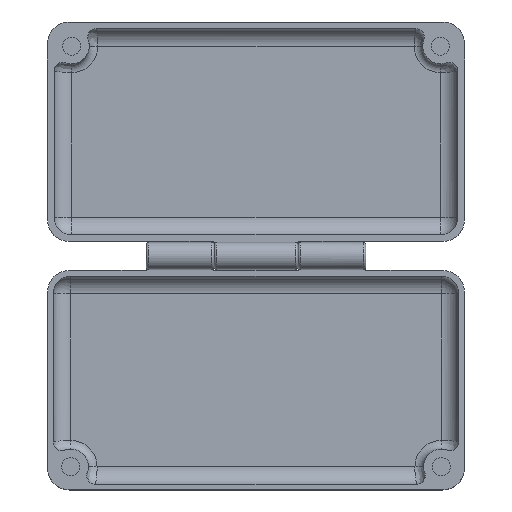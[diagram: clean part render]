
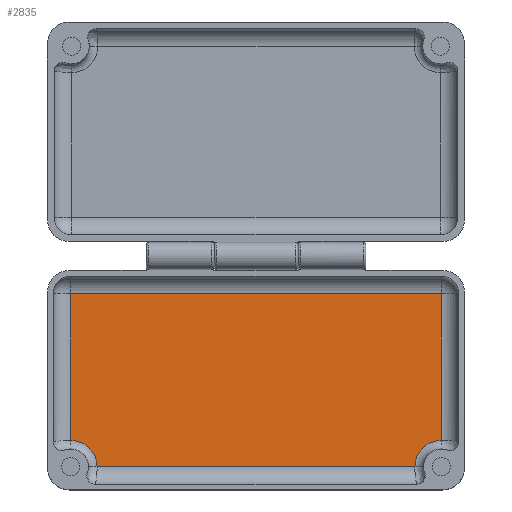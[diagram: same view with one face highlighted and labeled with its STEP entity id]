
A CAD part, top view. The second image highlights one B-rep face of the part: STEP entity #2835.
In plain terms, the highlighted planar face has unit normal (0, 0, 1).
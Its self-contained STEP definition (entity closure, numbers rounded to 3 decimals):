
#219 = CARTESIAN_POINT ( 'NONE',  ( 42.2, -22.85, -10.8 ) ) ;
#344 = VERTEX_POINT ( 'NONE', #1236 ) ;
#554 = CARTESIAN_POINT ( 'NONE',  ( -42.2, -28.85, -10.8 ) ) ;
#603 = CARTESIAN_POINT ( 'NONE',  ( -42.2, -22.85, -10.8 ) ) ;
#656 = CARTESIAN_POINT ( 'NONE',  ( 0., -9.15, -10.8 ) ) ;
#687 = DIRECTION ( 'NONE',  ( 1., 0., 0. ) ) ;
#976 = DIRECTION ( 'NONE',  ( 0., 0., -1. ) ) ;
#986 = ORIENTED_EDGE ( 'NONE', *, *, #3815, .T. ) ;
#1108 = LINE ( 'NONE', #4536, #3891 ) ;
#1160 = VECTOR ( 'NONE', #3842, 1000. ) ;
#1170 = FACE_OUTER_BOUND ( 'NONE', #3978, .T. ) ;
#1230 = CARTESIAN_POINT ( 'NONE',  ( 36.2, -28.85, -10.8 ) ) ;
#1236 = CARTESIAN_POINT ( 'NONE',  ( -36.2, -28.85, -10.8 ) ) ;
#1286 = DIRECTION ( 'NONE',  ( 0., 1., 0. ) ) ;
#1373 = ORIENTED_EDGE ( 'NONE', *, *, #5266, .T. ) ;
#1424 = LINE ( 'NONE', #1487, #2673 ) ;
#1448 = DIRECTION ( 'NONE',  ( 0., 0., -1. ) ) ;
#1487 = CARTESIAN_POINT ( 'NONE',  ( 42.2, -28.85, -10.8 ) ) ;
#1636 = AXIS2_PLACEMENT_3D ( 'NONE', #656, #4482, #3631 ) ;
#2112 = CARTESIAN_POINT ( 'NONE',  ( -42.2, 10.55, -10.8 ) ) ;
#2137 = ORIENTED_EDGE ( 'NONE', *, *, #3282, .T. ) ;
#2142 = VERTEX_POINT ( 'NONE', #3198 ) ;
#2155 = VERTEX_POINT ( 'NONE', #603 ) ;
#2265 = LINE ( 'NONE', #4348, #1160 ) ;
#2552 = EDGE_CURVE ( 'NONE', #2142, #5459, #1108, .T. ) ;
#2673 = VECTOR ( 'NONE', #687, 1000. ) ;
#2835 = ADVANCED_FACE ( 'NONE', ( #1170 ), #3196, .F. ) ;
#3196 = PLANE ( 'NONE',  #1636 ) ;
#3198 = CARTESIAN_POINT ( 'NONE',  ( 42.2, 10.55, -10.8 ) ) ;
#3282 = EDGE_CURVE ( 'NONE', #3773, #4585, #4891, .T. ) ;
#3336 = ORIENTED_EDGE ( 'NONE', *, *, #3412, .T. ) ;
#3350 = VECTOR ( 'NONE', #1286, 1000. ) ;
#3381 = ORIENTED_EDGE ( 'NONE', *, *, #2552, .T. ) ;
#3412 = EDGE_CURVE ( 'NONE', #2155, #344, #3944, .T. ) ;
#3631 = DIRECTION ( 'NONE',  ( 0., 1., 0. ) ) ;
#3773 = VERTEX_POINT ( 'NONE', #1230 ) ;
#3815 = EDGE_CURVE ( 'NONE', #4585, #2142, #4502, .T. ) ;
#3842 = DIRECTION ( 'NONE',  ( 0., -1., 0. ) ) ;
#3872 = EDGE_CURVE ( 'NONE', #5459, #2155, #2265, .T. ) ;
#3891 = VECTOR ( 'NONE', #4165, 1000. ) ;
#3944 = CIRCLE ( 'NONE', #5330, 6. ) ;
#3945 = DIRECTION ( 'NONE',  ( 0., 1., 0. ) ) ;
#3978 = EDGE_LOOP ( 'NONE', ( #1373, #2137, #986, #3381, #4786, #3336 ) ) ;
#3984 = CARTESIAN_POINT ( 'NONE',  ( 42.2, -28.85, -10.8 ) ) ;
#4133 = AXIS2_PLACEMENT_3D ( 'NONE', #3984, #1448, #4431 ) ;
#4165 = DIRECTION ( 'NONE',  ( -1., 0., 0. ) ) ;
#4191 = CARTESIAN_POINT ( 'NONE',  ( 42.2, -9.15, -10.8 ) ) ;
#4348 = CARTESIAN_POINT ( 'NONE',  ( -42.2, -28.85, -10.8 ) ) ;
#4431 = DIRECTION ( 'NONE',  ( 0., 1., 0. ) ) ;
#4482 = DIRECTION ( 'NONE',  ( 0., 0., -1. ) ) ;
#4502 = LINE ( 'NONE', #4191, #3350 ) ;
#4536 = CARTESIAN_POINT ( 'NONE',  ( 0., 10.55, -10.8 ) ) ;
#4585 = VERTEX_POINT ( 'NONE', #219 ) ;
#4786 = ORIENTED_EDGE ( 'NONE', *, *, #3872, .T. ) ;
#4891 = CIRCLE ( 'NONE', #4133, 6. ) ;
#5266 = EDGE_CURVE ( 'NONE', #344, #3773, #1424, .T. ) ;
#5330 = AXIS2_PLACEMENT_3D ( 'NONE', #554, #976, #3945 ) ;
#5459 = VERTEX_POINT ( 'NONE', #2112 ) ;
